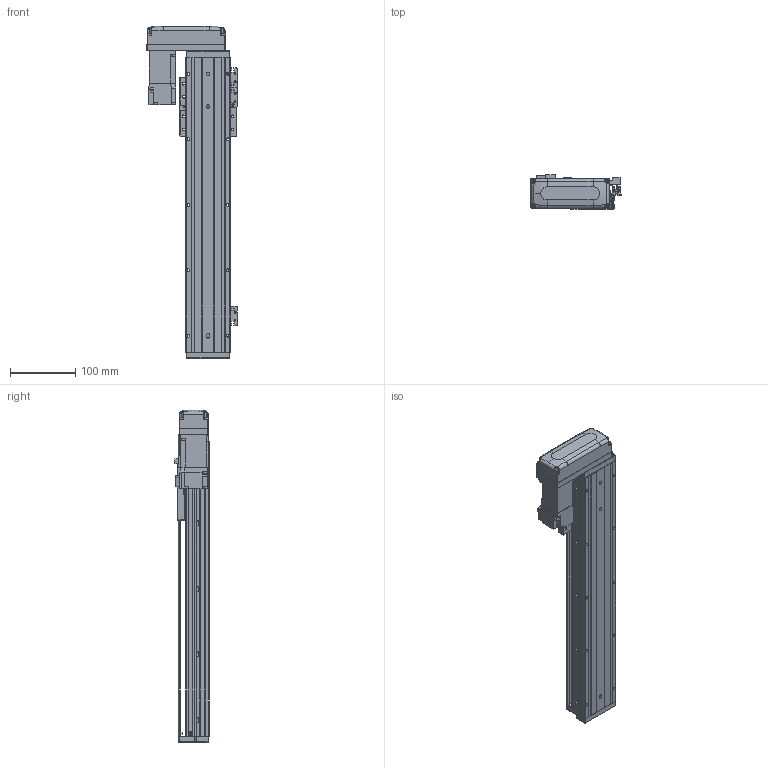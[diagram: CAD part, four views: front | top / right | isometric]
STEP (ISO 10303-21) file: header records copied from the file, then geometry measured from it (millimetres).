
FILE_DESCRIPTION (( 'STEP AP203' ), '1' );
FILE_NAME ('KTHAL60-300-BR-M10-C4L.step', '2022-03-19T08:44:07', ( '微软用户' ), ( '微软中国' ), 'SwSTEP 2.0', 'SolidWorks 2020', '' );
FILE_SCHEMA (( 'CONFIG_CONTROL_DESIGN' ));
Length unit declared in the file: millimetre
Products named in the file (18): CTHA60-021; CTHA60-033; KTHA60-004; GBT 70.1-M4×16; GBT 70.1-M3×15; KTHA60-005; GBT77-2000M3-3; KTHAL60-300-BR-M10-C4L; GB¨uT 70.2-M3¡Á5_M3¡Á6; GBT 70.1-M3℅6; GBT 70.3-M3℅6; CTHA60-016; EE_SX911P_R; HG-KR13（三菱）; KTHA60-001_450; CTHA60-017; CTHA60-015-2_CTHA60-015-2; KTHLA60-002
Assembly tree (51 placements, depth 2):
  KTHAL60-300-BR-M10-C4L
    KTHA60-001_450
    KTHLA60-002
    KTHA60-004
    KTHA60-005
    GB¨uT 70.2-M3¡Á5_M3¡Á6  x5
    GBT 70.3-M3℅6  x4
    EE_SX911P_R  x3
    CTHA60-017  x3
    CTHA60-021  x2
    GBT 70.1-M4×16  x10
    GBT77-2000M3-3  x6
    GBT 70.1-M3℅6  x6
    CTHA60-016
    HG-KR13（三菱）
    CTHA60-015-2_CTHA60-015-2
    CTHA60-033
    GBT 70.1-M3×15  x4
Bounding box: 137.82 x 52.3 x 507 mm (x, y, z)
Volume: 1207156.6 mm3; surface area: 297290.6 mm2
Topology: 54 solids, 54 shells, 2255 faces, 5331 edges, 3269 vertices
Faces by surface type: plane 1288, cylinder 547, cone 282, torus 98, bspline 26, sphere 14
Entity records: 38701 total; most frequent: CARTESIAN_POINT 7336, DIRECTION 6023, ORIENTED_EDGE 5806, EDGE_CURVE 2903, AXIS2_PLACEMENT_3D 2023, LINE 1977, VECTOR 1977, VERTEX_POINT 1818
